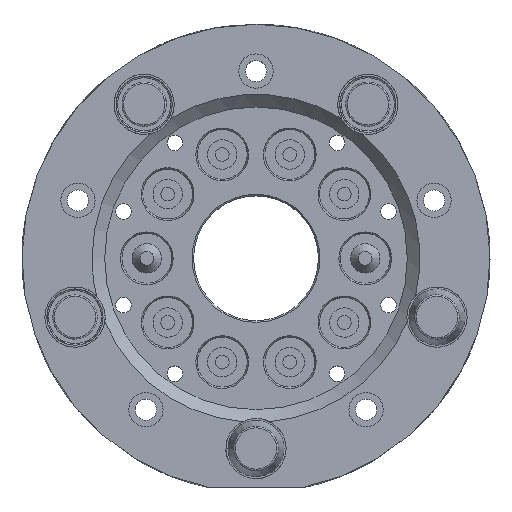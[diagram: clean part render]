
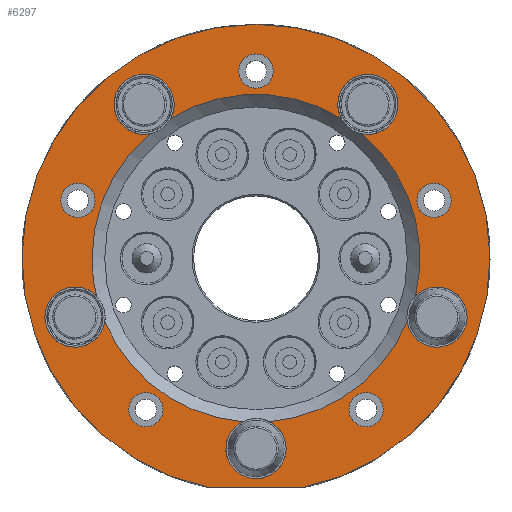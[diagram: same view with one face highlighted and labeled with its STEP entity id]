
A CAD part, top view. The second image highlights one B-rep face of the part: STEP entity #6297.
In plain terms, the highlighted planar face has unit normal (0, 0, 1).
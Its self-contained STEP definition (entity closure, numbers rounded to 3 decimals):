
#500=FACE_BOUND('',#1455,.T.);
#501=FACE_BOUND('',#1456,.T.);
#502=FACE_BOUND('',#1457,.T.);
#503=FACE_BOUND('',#1458,.T.);
#504=FACE_BOUND('',#1459,.T.);
#505=FACE_BOUND('',#1460,.T.);
#686=CIRCLE('',#6810,52.55);
#687=CIRCLE('',#6811,52.55);
#688=CIRCLE('',#6812,52.55);
#689=CIRCLE('',#6813,52.55);
#690=CIRCLE('',#6814,52.55);
#691=CIRCLE('',#6815,52.55);
#703=CIRCLE('',#6839,75.);
#704=CIRCLE('',#6840,5.5);
#705=CIRCLE('',#6841,5.5);
#706=CIRCLE('',#6842,5.5);
#707=CIRCLE('',#6843,5.5);
#708=CIRCLE('',#6844,5.5);
#709=CIRCLE('',#6845,9.65);
#710=CIRCLE('',#6846,9.65);
#711=CIRCLE('',#6847,9.65);
#712=CIRCLE('',#6848,9.65);
#713=CIRCLE('',#6849,9.65);
#714=CIRCLE('',#6850,9.65);
#715=CIRCLE('',#6851,9.65);
#716=CIRCLE('',#6852,9.65);
#717=CIRCLE('',#6853,9.65);
#994=FACE_OUTER_BOUND('',#1454,.T.);
#1454=EDGE_LOOP('',(#4700,#4701));
#1455=EDGE_LOOP('',(#4702));
#1456=EDGE_LOOP('',(#4703));
#1457=EDGE_LOOP('',(#4704));
#1458=EDGE_LOOP('',(#4705));
#1459=EDGE_LOOP('',(#4706));
#1460=EDGE_LOOP('',(#4707,#4708,#4709,#4710,#4711,#4712,#4713,#4714,#4715,
#4716,#4717,#4718,#4719,#4720,#4721));
#1969=LINE('',#10318,#2382);
#2382=VECTOR('',#7842,1000.);
#2812=VERTEX_POINT('',#9350);
#2813=VERTEX_POINT('',#9352);
#2815=VERTEX_POINT('',#9363);
#2816=VERTEX_POINT('',#9370);
#2817=VERTEX_POINT('',#9372);
#2818=VERTEX_POINT('',#9383);
#2819=VERTEX_POINT('',#9385);
#2820=VERTEX_POINT('',#9396);
#2821=VERTEX_POINT('',#9398);
#2822=VERTEX_POINT('',#9409);
#2823=VERTEX_POINT('',#9411);
#2876=VERTEX_POINT('',#10315);
#2877=VERTEX_POINT('',#10316);
#2878=VERTEX_POINT('',#10319);
#2879=VERTEX_POINT('',#10321);
#2880=VERTEX_POINT('',#10323);
#2881=VERTEX_POINT('',#10325);
#2882=VERTEX_POINT('',#10327);
#2883=VERTEX_POINT('',#10329);
#2884=VERTEX_POINT('',#10332);
#2885=VERTEX_POINT('',#10336);
#2886=VERTEX_POINT('',#10339);
#3489=EDGE_CURVE('',#2813,#2812,#686,.T.);
#3492=EDGE_CURVE('',#2816,#2815,#687,.T.);
#3494=EDGE_CURVE('',#2818,#2817,#688,.T.);
#3496=EDGE_CURVE('',#2820,#2819,#689,.T.);
#3498=EDGE_CURVE('',#2822,#2821,#690,.T.);
#3500=EDGE_CURVE('',#2812,#2823,#691,.T.);
#3571=EDGE_CURVE('',#2876,#2877,#703,.T.);
#3572=EDGE_CURVE('',#2877,#2876,#1969,.T.);
#3573=EDGE_CURVE('',#2878,#2878,#704,.T.);
#3574=EDGE_CURVE('',#2879,#2879,#705,.T.);
#3575=EDGE_CURVE('',#2880,#2880,#706,.T.);
#3576=EDGE_CURVE('',#2881,#2881,#707,.T.);
#3577=EDGE_CURVE('',#2882,#2882,#708,.T.);
#3578=EDGE_CURVE('',#2819,#2883,#709,.T.);
#3579=EDGE_CURVE('',#2883,#2818,#710,.T.);
#3580=EDGE_CURVE('',#2817,#2884,#711,.T.);
#3581=EDGE_CURVE('',#2884,#2816,#712,.T.);
#3582=EDGE_CURVE('',#2815,#2813,#713,.T.);
#3583=EDGE_CURVE('',#2823,#2885,#714,.T.);
#3584=EDGE_CURVE('',#2885,#2822,#715,.T.);
#3585=EDGE_CURVE('',#2821,#2886,#716,.T.);
#3586=EDGE_CURVE('',#2886,#2820,#717,.T.);
#4700=ORIENTED_EDGE('',*,*,#3571,.F.);
#4701=ORIENTED_EDGE('',*,*,#3572,.F.);
#4702=ORIENTED_EDGE('',*,*,#3573,.F.);
#4703=ORIENTED_EDGE('',*,*,#3574,.F.);
#4704=ORIENTED_EDGE('',*,*,#3575,.F.);
#4705=ORIENTED_EDGE('',*,*,#3576,.F.);
#4706=ORIENTED_EDGE('',*,*,#3577,.F.);
#4707=ORIENTED_EDGE('',*,*,#3496,.T.);
#4708=ORIENTED_EDGE('',*,*,#3578,.T.);
#4709=ORIENTED_EDGE('',*,*,#3579,.T.);
#4710=ORIENTED_EDGE('',*,*,#3494,.T.);
#4711=ORIENTED_EDGE('',*,*,#3580,.T.);
#4712=ORIENTED_EDGE('',*,*,#3581,.T.);
#4713=ORIENTED_EDGE('',*,*,#3492,.T.);
#4714=ORIENTED_EDGE('',*,*,#3582,.T.);
#4715=ORIENTED_EDGE('',*,*,#3489,.T.);
#4716=ORIENTED_EDGE('',*,*,#3500,.T.);
#4717=ORIENTED_EDGE('',*,*,#3583,.T.);
#4718=ORIENTED_EDGE('',*,*,#3584,.T.);
#4719=ORIENTED_EDGE('',*,*,#3498,.T.);
#4720=ORIENTED_EDGE('',*,*,#3585,.T.);
#4721=ORIENTED_EDGE('',*,*,#3586,.T.);
#6075=PLANE('',#6838);
#6297=ADVANCED_FACE('',(#994,#500,#501,#502,#503,#504,#505),#6075,.T.);
#6810=AXIS2_PLACEMENT_3D('',#9353,#7749,#7750);
#6811=AXIS2_PLACEMENT_3D('',#9371,#7751,#7752);
#6812=AXIS2_PLACEMENT_3D('',#9384,#7753,#7754);
#6813=AXIS2_PLACEMENT_3D('',#9397,#7755,#7756);
#6814=AXIS2_PLACEMENT_3D('',#9410,#7757,#7758);
#6815=AXIS2_PLACEMENT_3D('',#9422,#7759,#7760);
#6838=AXIS2_PLACEMENT_3D('',#10314,#7838,#7839);
#6839=AXIS2_PLACEMENT_3D('',#10317,#7840,#7841);
#6840=AXIS2_PLACEMENT_3D('',#10320,#7843,#7844);
#6841=AXIS2_PLACEMENT_3D('',#10322,#7845,#7846);
#6842=AXIS2_PLACEMENT_3D('',#10324,#7847,#7848);
#6843=AXIS2_PLACEMENT_3D('',#10326,#7849,#7850);
#6844=AXIS2_PLACEMENT_3D('',#10328,#7851,#7852);
#6845=AXIS2_PLACEMENT_3D('',#10330,#7853,#7854);
#6846=AXIS2_PLACEMENT_3D('',#10331,#7855,#7856);
#6847=AXIS2_PLACEMENT_3D('',#10333,#7857,#7858);
#6848=AXIS2_PLACEMENT_3D('',#10334,#7859,#7860);
#6849=AXIS2_PLACEMENT_3D('',#10335,#7861,#7862);
#6850=AXIS2_PLACEMENT_3D('',#10337,#7863,#7864);
#6851=AXIS2_PLACEMENT_3D('',#10338,#7865,#7866);
#6852=AXIS2_PLACEMENT_3D('',#10340,#7867,#7868);
#6853=AXIS2_PLACEMENT_3D('',#10341,#7869,#7870);
#7749=DIRECTION('center_axis',(0.,0.,-1.));
#7750=DIRECTION('ref_axis',(1.,0.,0.));
#7751=DIRECTION('center_axis',(0.,0.,-1.));
#7752=DIRECTION('ref_axis',(1.,0.,0.));
#7753=DIRECTION('center_axis',(0.,0.,-1.));
#7754=DIRECTION('ref_axis',(1.,0.,0.));
#7755=DIRECTION('center_axis',(0.,0.,-1.));
#7756=DIRECTION('ref_axis',(1.,0.,0.));
#7757=DIRECTION('center_axis',(0.,0.,-1.));
#7758=DIRECTION('ref_axis',(1.,0.,0.));
#7759=DIRECTION('center_axis',(0.,0.,-1.));
#7760=DIRECTION('ref_axis',(1.,0.,0.));
#7838=DIRECTION('center_axis',(0.,0.,1.));
#7839=DIRECTION('ref_axis',(1.,0.,0.));
#7840=DIRECTION('center_axis',(0.,0.,-1.));
#7841=DIRECTION('ref_axis',(0.,1.,0.));
#7842=DIRECTION('',(-1.,0.,0.));
#7843=DIRECTION('center_axis',(0.,0.,1.));
#7844=DIRECTION('ref_axis',(0.,-1.,0.));
#7845=DIRECTION('center_axis',(0.,0.,1.));
#7846=DIRECTION('ref_axis',(0.,-1.,0.));
#7847=DIRECTION('center_axis',(0.,0.,1.));
#7848=DIRECTION('ref_axis',(0.,-1.,0.));
#7849=DIRECTION('center_axis',(0.,0.,1.));
#7850=DIRECTION('ref_axis',(0.,-1.,0.));
#7851=DIRECTION('center_axis',(0.,0.,1.));
#7852=DIRECTION('ref_axis',(0.,-1.,0.));
#7853=DIRECTION('center_axis',(0.,0.,-1.));
#7854=DIRECTION('ref_axis',(-1.,0.,0.));
#7855=DIRECTION('center_axis',(0.,0.,-1.));
#7856=DIRECTION('ref_axis',(-1.,0.,0.));
#7857=DIRECTION('center_axis',(0.,0.,-1.));
#7858=DIRECTION('ref_axis',(-1.,0.,0.));
#7859=DIRECTION('center_axis',(0.,0.,-1.));
#7860=DIRECTION('ref_axis',(-1.,0.,0.));
#7861=DIRECTION('center_axis',(0.,0.,-1.));
#7862=DIRECTION('ref_axis',(-1.,0.,0.));
#7863=DIRECTION('center_axis',(0.,0.,-1.));
#7864=DIRECTION('ref_axis',(-1.,0.,0.));
#7865=DIRECTION('center_axis',(0.,0.,-1.));
#7866=DIRECTION('ref_axis',(-1.,0.,0.));
#7867=DIRECTION('center_axis',(0.,0.,-1.));
#7868=DIRECTION('ref_axis',(-1.,0.,0.));
#7869=DIRECTION('center_axis',(0.,0.,-1.));
#7870=DIRECTION('ref_axis',(-1.,0.,0.));
#9350=CARTESIAN_POINT('',(-82.588,73.5,0.));
#9352=CARTESIAN_POINT('',(-81.182,61.427,0.));
#9353=CARTESIAN_POINT('Origin',(-30.038,73.5,0.));
#9363=CARTESIAN_POINT('',(-78.511,53.206,0.));
#9370=CARTESIAN_POINT('',(-34.36,21.128,0.));
#9371=CARTESIAN_POINT('Origin',(-30.038,73.5,0.));
#9372=CARTESIAN_POINT('',(-25.716,21.128,0.));
#9383=CARTESIAN_POINT('',(18.436,53.206,0.));
#9384=CARTESIAN_POINT('Origin',(-30.038,73.5,0.));
#9385=CARTESIAN_POINT('',(21.107,61.427,0.));
#9396=CARTESIAN_POINT('',(4.242,113.329,0.));
#9397=CARTESIAN_POINT('Origin',(-30.038,73.5,0.));
#9398=CARTESIAN_POINT('',(-2.751,118.41,0.));
#9409=CARTESIAN_POINT('',(-57.325,118.41,0.));
#9410=CARTESIAN_POINT('Origin',(-30.038,73.5,0.));
#9411=CARTESIAN_POINT('',(-64.318,113.329,0.));
#9422=CARTESIAN_POINT('Origin',(-30.038,73.5,0.));
#10314=CARTESIAN_POINT('Origin',(44.962,73.5,0.));
#10315=CARTESIAN_POINT('',(-44.962,0.,0.));
#10316=CARTESIAN_POINT('',(-15.113,0.,0.));
#10317=CARTESIAN_POINT('Origin',(-30.038,73.5,0.));
#10318=CARTESIAN_POINT('',(-15.113,0.,0.));
#10319=CARTESIAN_POINT('',(5.23,30.459,0.));
#10320=CARTESIAN_POINT('Origin',(5.23,24.959,0.));
#10321=CARTESIAN_POINT('',(27.026,97.541,0.));
#10322=CARTESIAN_POINT('Origin',(27.026,92.041,0.));
#10323=CARTESIAN_POINT('',(-30.038,139.,0.));
#10324=CARTESIAN_POINT('Origin',(-30.038,133.5,0.));
#10325=CARTESIAN_POINT('',(-87.101,97.541,0.));
#10326=CARTESIAN_POINT('Origin',(-87.101,92.041,0.));
#10327=CARTESIAN_POINT('',(-65.305,30.459,0.));
#10328=CARTESIAN_POINT('Origin',(-65.305,24.959,0.));
#10329=CARTESIAN_POINT('',(37.627,54.65,0.));
#10330=CARTESIAN_POINT('Origin',(27.977,54.65,0.));
#10331=CARTESIAN_POINT('Origin',(27.977,54.65,0.));
#10332=CARTESIAN_POINT('',(-20.388,12.5,0.));
#10333=CARTESIAN_POINT('Origin',(-30.038,12.5,0.));
#10334=CARTESIAN_POINT('Origin',(-30.038,12.5,0.));
#10335=CARTESIAN_POINT('Origin',(-88.052,54.65,0.));
#10336=CARTESIAN_POINT('',(-56.242,122.85,0.));
#10337=CARTESIAN_POINT('Origin',(-65.892,122.85,0.));
#10338=CARTESIAN_POINT('Origin',(-65.892,122.85,0.));
#10339=CARTESIAN_POINT('',(15.467,122.85,0.));
#10340=CARTESIAN_POINT('Origin',(5.817,122.85,0.));
#10341=CARTESIAN_POINT('Origin',(5.817,122.85,0.));
